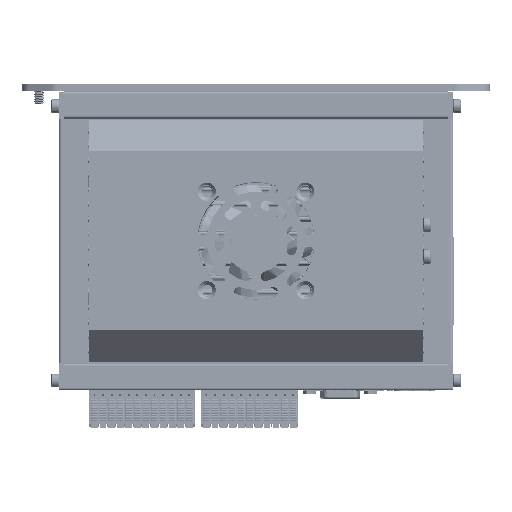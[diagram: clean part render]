
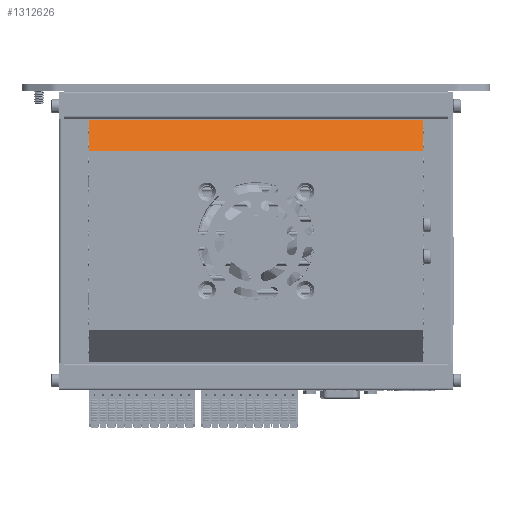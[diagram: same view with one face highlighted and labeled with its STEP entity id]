
A CAD part, front view. The second image highlights one B-rep face of the part: STEP entity #1312626.
In plain terms, the highlighted planar face has unit normal (0, -0.707, 0.707).
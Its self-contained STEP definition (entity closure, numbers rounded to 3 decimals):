
#1309899=DIRECTION('',(1.,0.,0.));
#1309900=VECTOR('',#1309899,136.6);
#1309901=CARTESIAN_POINT('',(-77.287,-55.765,
185.352));
#1309902=LINE('',#1309901,#1309900);
#1310285=DIRECTION('',(-1.,0.,0.));
#1310286=VECTOR('',#1310285,136.6);
#1310287=CARTESIAN_POINT('',(59.313,-42.772,
198.344));
#1310288=LINE('',#1310287,#1310286);
#1310289=DIRECTION('',(0.,0.707,0.707));
#1310290=VECTOR('',#1310289,18.374);
#1310291=CARTESIAN_POINT('',(59.313,-55.765,
185.352));
#1310292=LINE('',#1310291,#1310290);
#1310293=DIRECTION('',(0.,0.707,0.707));
#1310294=VECTOR('',#1310293,18.374);
#1310295=CARTESIAN_POINT('',(-77.287,-55.765,
185.352));
#1310296=LINE('',#1310295,#1310294);
#1310995=CARTESIAN_POINT('',(-77.287,-42.772,
198.344));
#1310996=VERTEX_POINT('',#1310995);
#1311001=CARTESIAN_POINT('',(59.313,-42.772,
198.344));
#1311002=VERTEX_POINT('',#1311001);
#1311321=CARTESIAN_POINT('',(-77.287,-55.765,
185.352));
#1311322=VERTEX_POINT('',#1311321);
#1311335=CARTESIAN_POINT('',(59.313,-55.765,
185.352));
#1311336=VERTEX_POINT('',#1311335);
#1312613=CARTESIAN_POINT('',(-8.937,-49.893,
191.223));
#1312614=DIRECTION('',(0.,-0.707,0.707));
#1312615=DIRECTION('',(0.,0.707,0.707));
#1312616=AXIS2_PLACEMENT_3D('',#1312613,#1312614,#1312615);
#1312617=PLANE('',#1312616);
#1312619=ORIENTED_EDGE('',*,*,#1312618,.F.);
#1312621=ORIENTED_EDGE('',*,*,#1312620,.F.);
#1312622=ORIENTED_EDGE('',*,*,#1312399,.F.);
#1312623=ORIENTED_EDGE('',*,*,#1311549,.T.);
#1312624=EDGE_LOOP('',(#1312619,#1312621,#1312622,#1312623));
#1312625=FACE_OUTER_BOUND('',#1312624,.F.);
#1312626=ADVANCED_FACE('',(#1312625),#1312617,.T.);
#1311549=EDGE_CURVE('',#1311322,#1310996,#1310296,.T.);
#1312399=EDGE_CURVE('',#1311322,#1311336,#1309902,.T.);
#1312618=EDGE_CURVE('',#1311002,#1310996,#1310288,.T.);
#1312620=EDGE_CURVE('',#1311336,#1311002,#1310292,.T.);
